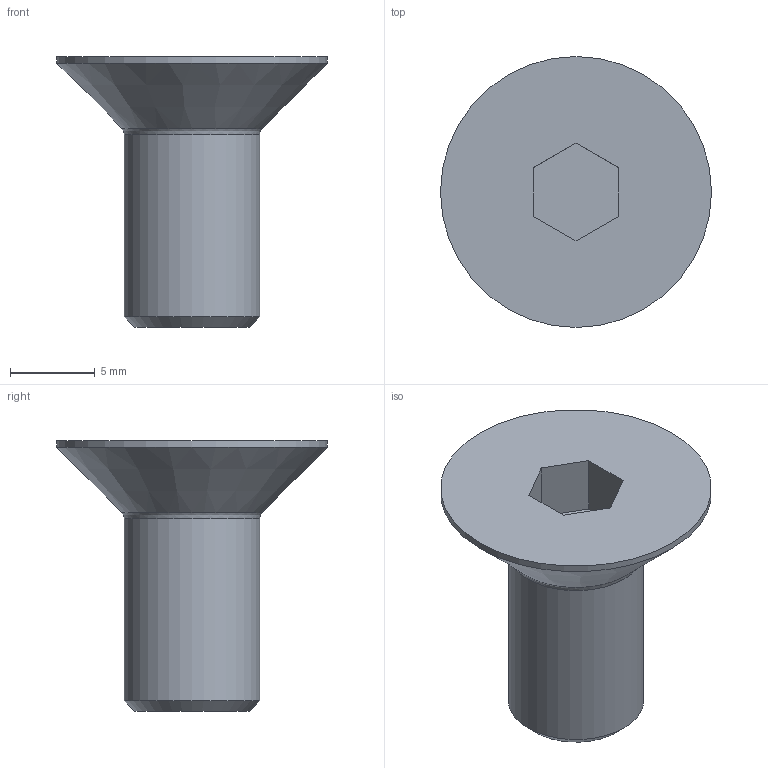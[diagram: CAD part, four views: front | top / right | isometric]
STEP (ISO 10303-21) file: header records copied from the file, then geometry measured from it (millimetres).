
FILE_DESCRIPTION((''),'2;1');
FILE_NAME('C:\Documents and Settings\Administrator\My Documents\Andys Backup Data\ANDY''S INVENTOR\INVENTOR LIBRARIES\MINITEC INVENTOR LIBRARIES\FASTENING ELEMENTS\SCREWS COUNTERSUNK\step\21.1513 M8X16 CSUNK.stp','2010-06-30T10:36:20',('Administrator'),(''),'Autodesk Inventor 2009','Autodesk Inventor 2009','');
FILE_SCHEMA(('CONFIG_CONTROL_DESIGN'));
Length unit declared in the file: millimetre
Products named in the file (1): 21.1513 M8x16 C'SUNK
Bounding box: 16 x 16 x 16 mm (x, y, z)
Volume: 1052.3 mm3; surface area: 826.6 mm2
Topology: 1 solids, 1 shells, 14 faces, 29 edges, 18 vertices
Faces by surface type: plane 9, cone 2, cylinder 2, bspline 1
Full cylindrical faces by diameter (mm): 8 x1, 16 x1
Entity records: 399 total; most frequent: CARTESIAN_POINT 101, DIRECTION 58, ORIENTED_EDGE 48, EDGE_CURVE 24, AXIS2_PLACEMENT_3D 20, EDGE_LOOP 20, VERTEX_POINT 18, VECTOR 18
